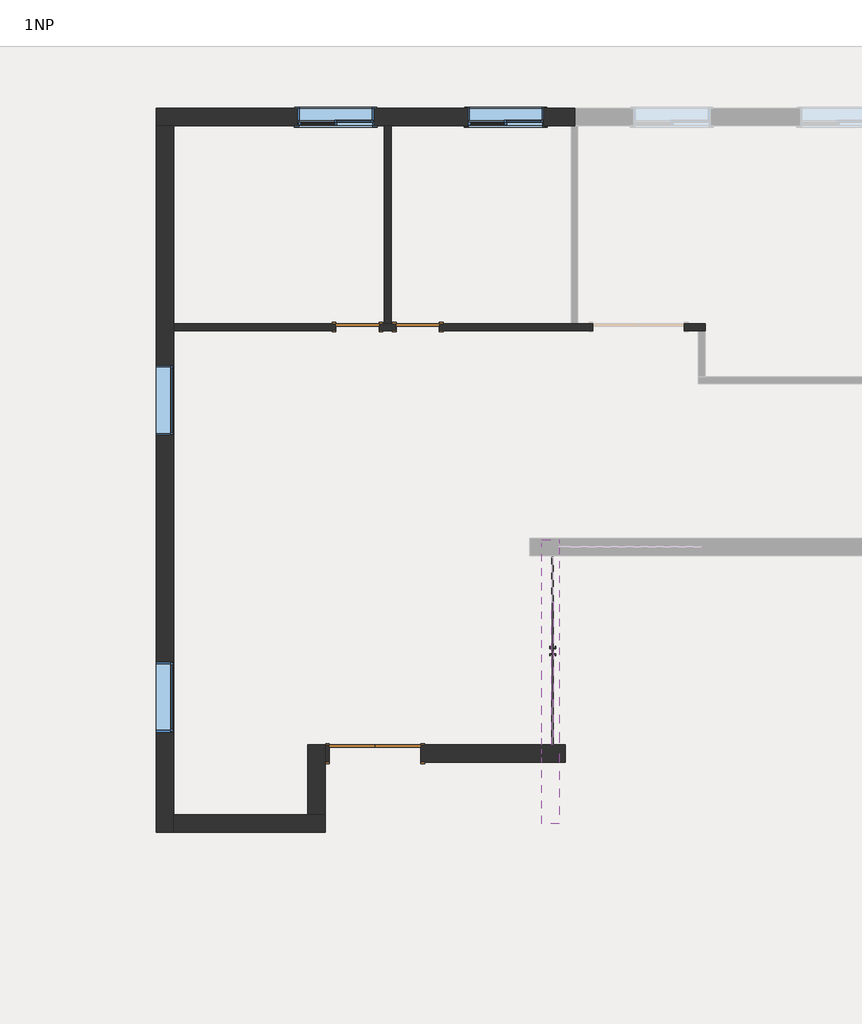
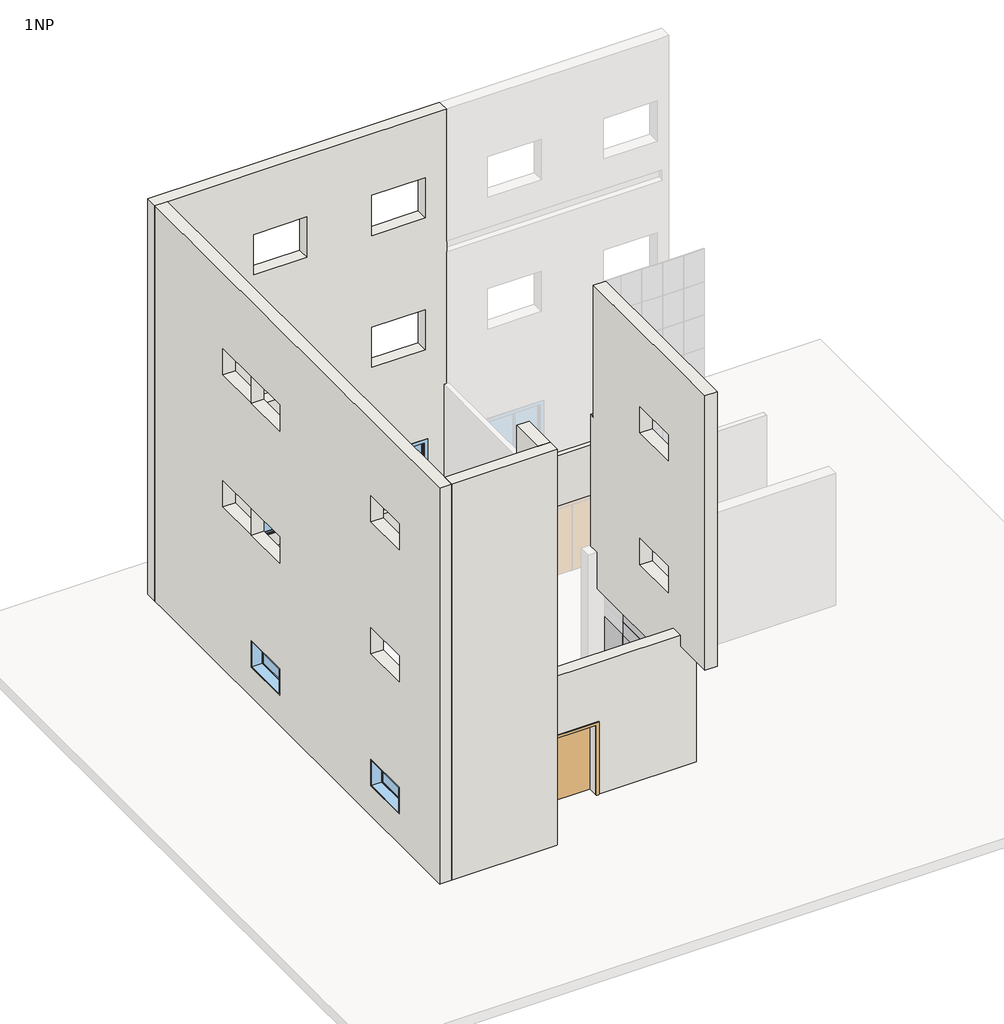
# One storey, part 1 of 2: 8 walls, 7 plates, 4 windows, 3 doors.
"""IFC4 building model written with IfcOpenShell, lengths in millimetres."""

import ifcopenshell
import ifcopenshell.guid

model = None  # the IFC model being written
_history = None  # IfcOwnerHistory: only IFC2X3 demands one
_inside = {}  # id of a spatial element -> (the spatial element, [elements in it])
_under = {}  # id of a project, library or spatial element -> (it, [spatial elements below it])
_declared = {}  # id of a project -> (the project, [libraries it declares])
_typed = {}  # id of a type object -> (the type object, [elements of that type])
_made_of = {}  # id of a material, layer set ... -> (it, [elements and type objects made of it])


def new_model(schema):
    """Start an empty IFC model of exactly this schema.

    Asked for "IFC4X3", IfcOpenShell would pick the latest addendum, in which some entities
    have other attributes; the version numbers below select the first issue.
    IFC2X3 requires an IfcOwnerHistory on every rooted entity: one is made here for all.
    """
    global model, _history
    if schema == "IFC4X3":
        model = ifcopenshell.file(schema_version=(4, 3, 0, 0))
    else:
        model = ifcopenshell.file(schema=schema)
    _inside.clear()
    _under.clear()
    _declared.clear()
    _typed.clear()
    _made_of.clear()
    _history = None
    if model.schema == "IFC2X3":
        org = make("IfcOrganization", Name="unknown")
        user = make(
            "IfcPersonAndOrganization",
            ThePerson=make("IfcPerson", FamilyName="unknown"),
            TheOrganization=org,
        )
        app = make(
            "IfcApplication",
            ApplicationDeveloper=org,
            Version="unknown",
            ApplicationFullName="unknown",
            ApplicationIdentifier="unknown",
        )
        _history = make(
            "IfcOwnerHistory",
            OwningUser=user,
            OwningApplication=app,
            ChangeAction="ADDED",
            CreationDate=0,
        )
    return model


def make(cls, **values):
    """One entity of the class cls with the attributes given. An attribute that is None is left unset."""
    return model.create_entity(
        cls, **{name: value for name, value in values.items() if value is not None}
    )


def rooted(cls, **values):
    """An entity with a GlobalId (a new one), such as an element, a storey or a relation."""
    return make(cls, GlobalId=ifcopenshell.guid.new(), OwnerHistory=_history, **values)


def si_unit(unit_type, name, prefix=None):
    """IfcSIUnit, for example si_unit("LENGTHUNIT", "METRE", prefix="MILLI")."""
    return make("IfcSIUnit", UnitType=unit_type, Prefix=prefix, Name=name)


def assignment(units):
    """IfcUnitAssignment: the units of a project."""
    return None if units is None else make("IfcUnitAssignment", Units=units)


def point(xyz):
    """IfcCartesianPoint."""
    return None if xyz is None else make("IfcCartesianPoint", Coordinates=xyz)


def direction(xyz):
    """IfcDirection."""
    return None if xyz is None else make("IfcDirection", DirectionRatios=xyz)


def frame(location, z_axis=None, x_axis=None):
    """IfcAxis2Placement3D, a coordinate frame: its origin and axes. An axis left out is left unset."""
    return make(
        "IfcAxis2Placement3D",
        Location=point(location),
        Axis=direction(z_axis),
        RefDirection=direction(x_axis),
    )


def origin():
    """The frame at (0, 0, 0) with its axes left unset."""
    return frame((0.0, 0.0, 0.0))


def origin_with_axes():
    """The frame at (0, 0, 0) with the z axis (0, 0, 1) and the x axis (1, 0, 0) written out."""
    return frame((0.0, 0.0, 0.0), z_axis=(0.0, 0.0, 1.0), x_axis=(1.0, 0.0, 0.0))


def place(relative_to, where):
    """IfcLocalPlacement: puts the frame where relative to a parent placement (None: the world)."""
    return make(
        "IfcLocalPlacement", PlacementRelTo=relative_to, RelativePlacement=where
    )


def context(
    kind, dimensions, precision=None, world=None, true_north=None, identifier=None
):
    """IfcGeometricRepresentationContext, for example the 3D "Model" context."""
    return make(
        "IfcGeometricRepresentationContext",
        ContextIdentifier=identifier,
        ContextType=kind,
        CoordinateSpaceDimension=dimensions,
        Precision=precision,
        WorldCoordinateSystem=world,
        TrueNorth=true_north,
    )


def project(units=None, contexts=None):
    """IfcProject with its units and contexts."""
    return rooted(
        "IfcProject",
        Name="project",
        RepresentationContexts=contexts,
        UnitsInContext=assignment(units),
    )


def spatial(cls, under=None, at=None, **own):
    """A site, building, storey or space (cls), placed at a placement, below another one or the project."""
    s = rooted(cls, ObjectPlacement=at, **own)
    if under is not None:
        _under.setdefault(under.id(), (under, []))[1].append(s)
    return s


def polyline(points):
    """IfcPolyline through the points."""
    return make("IfcPolyline", Points=[point(p) for p in points])


def outline(outer, holes=None, kind="AREA"):
    """IfcArbitraryClosedProfileDef: a profile drawn as a closed curve; with holes, ...WithVoids."""
    if holes is None:
        return make("IfcArbitraryClosedProfileDef", ProfileType=kind, OuterCurve=outer)
    return make(
        "IfcArbitraryProfileDefWithVoids",
        ProfileType=kind,
        OuterCurve=outer,
        InnerCurves=holes,
    )


def extrude(swept, where, along, depth):
    """IfcExtrudedAreaSolid: the profile swept, set in the frame where, extruded along a direction by depth."""
    return make(
        "IfcExtrudedAreaSolid",
        SweptArea=swept,
        Position=where,
        ExtrudedDirection=direction(along),
        Depth=depth,
    )


def faces_of(points, faces, orient=None, outer=None):
    """IfcFace entities. A face is a list of loops; a loop is a list of indices into points, from 0.

    orient and outer hold one flag for each loop. By default every Orientation is true, the
    first loop of a face is its IfcFaceOuterBound and the others are IfcFaceBound.
    """
    made = []
    for i, loops in enumerate(faces):
        bounds = []
        for j, loop in enumerate(loops):
            is_outer = j == 0 if outer is None else outer[i][j]
            bounds.append(
                make(
                    "IfcFaceOuterBound" if is_outer else "IfcFaceBound",
                    Bound=make("IfcPolyLoop", Polygon=[points[k] for k in loop]),
                    Orientation=True if orient is None else orient[i][j],
                )
            )
        made.append(make("IfcFace", Bounds=bounds))
    return made


def faceted_brep(points, faces, orient=None, outer=None, voids=None):
    """IfcFacetedBrep: a solid bounded by flat faces; with voids (closed shells), ...WithVoids."""
    shared = [point(p) for p in points]
    hull = make("IfcClosedShell", CfsFaces=faces_of(shared, faces, orient, outer))
    if voids is None:
        return make("IfcFacetedBrep", Outer=hull)
    return make(
        "IfcFacetedBrepWithVoids",
        Outer=hull,
        Voids=[
            make(cls, CfsFaces=faces_of(shared, fs, o, b)) for cls, fs, o, b in voids
        ],
    )


def shape(context_of_items, identifier, shape_type, items):
    """IfcShapeRepresentation: the items that make up one representation, for example the "Body"."""
    return make(
        "IfcShapeRepresentation",
        ContextOfItems=context_of_items,
        RepresentationIdentifier=identifier,
        RepresentationType=shape_type,
        Items=items,
    )


def source(mapping_origin, context_of_items, identifier, shape_type, items):
    """IfcRepresentationMap: a shape defined once, which mapped items show again and again."""
    return make(
        "IfcRepresentationMap",
        MappingOrigin=mapping_origin,
        MappedRepresentation=shape(context_of_items, identifier, shape_type, items),
    )


def transform(
    local_origin,
    x_axis=None,
    y_axis=None,
    z_axis=None,
    scale=None,
    scale2=None,
    scale3=None,
    uniform=True,
):
    """IfcCartesianTransformationOperator3D, or its non-uniform kind. x_axis, y_axis, z_axis: its Axis1, 2, 3."""
    if uniform:
        return make(
            "IfcCartesianTransformationOperator3D",
            Axis1=direction(x_axis),
            Axis2=direction(y_axis),
            LocalOrigin=point(local_origin),
            Scale=scale,
            Axis3=direction(z_axis),
        )
    return make(
        "IfcCartesianTransformationOperator3DnonUniform",
        Axis1=direction(x_axis),
        Axis2=direction(y_axis),
        LocalOrigin=point(local_origin),
        Scale=scale,
        Axis3=direction(z_axis),
        Scale2=scale2,
        Scale3=scale3,
    )


def mapped(mapping_source, mapping_target):
    """IfcMappedItem: shows the shape of a source again, moved by a transform."""
    return make(
        "IfcMappedItem", MappingSource=mapping_source, MappingTarget=mapping_target
    )


def made_of(thing, what):
    """Note that an element or type object is made of a material, layer set ...; save() writes the relation."""
    if what is not None:
        _made_of.setdefault(what.id(), (what, []))[1].append(thing)
    return thing


def element(
    cls,
    number,
    at=None,
    inside=None,
    cuts=None,
    type_object=None,
    material=None,
    context=None,
    identifier="Body",
    shape_type=None,
    held_by="IfcProductDefinitionShape",
    body=None,
    shapes=None,
    **own,
):
    """One element of the class cls, such as IfcWall. Its Tag is "e" and its number.

    at: its placement. inside: the storey or other place that contains it. cuts: it is an
    opening in that element (IfcRelVoidsElement). A single representation is given by context,
    identifier, shape_type and body (its items); several are given by shapes. held_by: the class
    of the entity that holds the representations. save() writes the other relations.
    """
    e = rooted(cls, Tag="e%d" % number, ObjectPlacement=at, **own)
    if body is not None:
        shapes = [shape(context, identifier, shape_type, body)]
    if shapes is not None:
        e.Representation = make(held_by, Representations=shapes)
    if inside is not None:
        _inside.setdefault(inside.id(), (inside, []))[1].append(e)
    if cuts is not None:
        rooted(
            "IfcRelVoidsElement", RelatingBuildingElement=cuts, RelatedOpeningElement=e
        )
    if type_object is not None:
        _typed.setdefault(type_object.id(), (type_object, []))[1].append(e)
    return made_of(e, material)


def aggregate(whole, parts):
    """IfcRelAggregates: a whole, such as a stair, and the parts it consists of."""
    return rooted("IfcRelAggregates", RelatingObject=whole, RelatedObjects=parts)


def save(model, path):
    """Write the relations noted so far, then the file.

    IfcRelAggregates (storeys below a building ...), IfcRelContainedInSpatialStructure (elements
    in a storey), IfcRelDefinesByType, IfcRelAssociatesMaterial and IfcRelDeclares: one each for
    every whole, place, type object, material and project.
    """
    for whole, parts in _under.values():
        aggregate(whole, parts)
    for where, things in _inside.values():
        rooted(
            "IfcRelContainedInSpatialStructure",
            RelatedElements=things,
            RelatingStructure=where,
        )
    for kind, things in _typed.values():
        rooted("IfcRelDefinesByType", RelatedObjects=things, RelatingType=kind)
    for what, things in _made_of.values():
        rooted("IfcRelAssociatesMaterial", RelatedObjects=things, RelatingMaterial=what)
    for by, libraries in _declared.values():
        rooted("IfcRelDeclares", RelatingContext=by, RelatedDefinitions=libraries)
    model.write(path)


def m_double_flush_1830_x_2134mm_224c2c1d(model_context):
    return source(origin(), model_context, "Body", "SweptSolid", [
        extrude(outline(polyline([(0.0, 175.0), (915.0, 175.0), (915.0, 124.0), (0.0, 124.0), (0.0, 175.0)])), origin_with_axes(), (0.0, 0.0, 1.0), 2134.0),
        extrude(outline(polyline([(-915.0, 175.0), (0.0, 175.0), (0.0, 124.0), (-915.0, 124.0), (-915.0, 175.0)])), origin_with_axes(), (0.0, 0.0, 1.0), 2134.0),
        extrude(outline(polyline([(2134.0, -915.0), (2134.0, 915.0), (0.0, 915.0), (0.0, 991.0), (2210.0, 991.0), (2210.0, -991.0), (0.0, -991.0), (0.0, -915.0), (2134.0, -915.0)])), frame((0.0, -200.0, 0.0), z_axis=(0.0, 1.0, 0.0), x_axis=(0.0, 0.0, 1.0)), (0.0, 0.0, 1.0), 25.0),
        extrude(outline(polyline([(2134.0, -915.0), (2134.0, 915.0), (0.0, 915.0), (0.0, 991.0), (2210.0, 991.0), (2210.0, -991.0), (0.0, -991.0), (0.0, -915.0), (2134.0, -915.0)])), frame((0.0, 175.0, 0.0), z_axis=(0.0, 1.0, 0.0), x_axis=(0.0, 0.0, 1.0)), (0.0, 0.0, 1.0), 25.0),
    ])


def m_single_flush_0864_x_2134mm_5a8c3ac0(model_context):
    return source(origin(), model_context, "Body", "SweptSolid", [
        extrude(outline(polyline([(2210.0, -508.0), (0.0, -508.0), (0.0, -432.0), (2134.0, -432.0), (2134.0, 432.0), (0.0, 432.0), (0.0, 508.0), (2210.0, 508.0), (2210.0, -508.0)])), frame((0.0, 69.25, 0.0), z_axis=(0.0, 1.0, 0.0), x_axis=(0.0, 0.0, 1.0)), (0.0, 0.0, 1.0), 25.0),
        extrude(outline(polyline([(2210.0, 508.0), (2210.0, -508.0), (0.0, -508.0), (0.0, -432.0), (2134.0, -432.0), (2134.0, 432.0), (0.0, 432.0), (0.0, 508.0), (2210.0, 508.0)])), frame((0.0, -94.25, 0.0), z_axis=(0.0, 1.0, 0.0), x_axis=(0.0, 0.0, 1.0)), (0.0, 0.0, 1.0), 25.0),
        extrude(outline(polyline([(432.0, 18.25), (-432.0, 18.25), (-432.0, 69.25), (432.0, 69.25), (432.0, 18.25)])), origin_with_axes(), (0.0, 0.0, 1.0), 2134.0),
    ])


def m_single_flush_0864_x_2134mm_a6052287(model_context):
    return source(origin(), model_context, "Body", "SweptSolid", [
        extrude(outline(polyline([(2210.0, -508.0), (0.0, -508.0), (0.0, -432.0), (2134.0, -432.0), (2134.0, 432.0), (0.0, 432.0), (0.0, 508.0), (2210.0, 508.0), (2210.0, -508.0)])), frame((0.0, -94.25, 0.0), z_axis=(0.0, 1.0, 0.0), x_axis=(0.0, 0.0, 1.0)), (0.0, 0.0, 1.0), 25.0),
        extrude(outline(polyline([(2210.0, 508.0), (2210.0, -508.0), (0.0, -508.0), (0.0, -432.0), (2134.0, -432.0), (2134.0, 432.0), (0.0, 432.0), (0.0, 508.0), (2210.0, 508.0)])), frame((0.0, 69.25, 0.0), z_axis=(0.0, 1.0, 0.0), x_axis=(0.0, 0.0, 1.0)), (0.0, 0.0, 1.0), 25.0),
        extrude(outline(polyline([(432.0, -18.25), (432.0, -69.25), (-432.0, -69.25), (-432.0, -18.25), (432.0, -18.25)])), origin_with_axes(), (0.0, 0.0, 1.0), 2134.0),
    ])


def m_curtain_wall_dbl_glass_m_curtain_wall_dbl_glass_b983a01c(model_context):
    return source(origin(), model_context, "Body", "SweptSolid", [
        extrude(outline(polyline([(-1.5875, -30.95), (-1.5875, -50.0), (-975.0, -50.0), (-975.0, -30.95), (-1.5875, -30.95)])), origin_with_axes(), (0.0, 0.0, 1.0), 2000.0),
        extrude(outline(polyline([(975.0, -30.95), (975.0, -50.0), (1.5875, -50.0), (1.5875, -30.95), (975.0, -30.95)])), origin_with_axes(), (0.0, 0.0, 1.0), 2000.0),
        extrude(outline(polyline([(-50.8, -100.8), (-95.25, -100.8), (-95.25, -94.45), (-57.15, -94.45), (-57.15, -50.0), (-50.8, -50.0), (-50.8, -100.8)])), frame((0.0, 0.0, 863.6), z_axis=(0.0, 0.0, 1.0), x_axis=(1.0, 0.0, 0.0)), (0.0, 0.0, 1.0), 203.2),
        extrude(outline(polyline([(50.8, -100.8), (50.8, -50.0), (57.15, -50.0), (57.15, -94.45), (95.25, -94.45), (95.25, -100.8), (50.8, -100.8)])), frame((0.0, 0.0, 863.6), z_axis=(0.0, 0.0, 1.0), x_axis=(1.0, 0.0, 0.0)), (0.0, 0.0, 1.0), 203.2),
        extrude(outline(polyline([(-50.8, 19.85), (-50.8, -30.95), (-57.15, -30.95), (-57.15, 13.5), (-95.25, 13.5), (-95.25, 19.85), (-50.8, 19.85)])), frame((0.0, 0.0, 863.6), z_axis=(0.0, 0.0, 1.0), x_axis=(1.0, 0.0, 0.0)), (0.0, 0.0, 1.0), 203.2),
        extrude(outline(polyline([(50.8, 19.85), (95.25, 19.85), (95.25, 13.5), (57.15, 13.5), (57.15, -30.95), (50.8, -30.95), (50.8, 19.85)])), frame((0.0, 0.0, 863.6), z_axis=(0.0, 0.0, 1.0), x_axis=(1.0, 0.0, 0.0)), (0.0, 0.0, 1.0), 203.2),
    ])


def system_panel_glazed_d6775a2a(model_context):
    return source(origin(), model_context, "Body", "SweptSolid", [
        extrude(outline(polyline([(450.0, -49.5), (-450.0, -49.5), (-450.0, -24.5), (450.0, -24.5), (450.0, -49.5)])), origin_with_axes(), (0.0, 0.0, 1.0), 2000.0),
    ])


def system_panel_glazed_e6f66e58(model_context):
    return source(origin(), model_context, "Body", "SweptSolid", [
        extrude(outline(polyline([(450.0, -49.5), (-450.0, -49.5), (-450.0, -24.5), (450.0, -24.5), (450.0, -49.5)])), origin_with_axes(), (0.0, 0.0, 1.0), 400.0),
    ])


def system_panel_glazed_1b13e7de(model_context):
    return source(origin(), model_context, "Body", "SweptSolid", [
        extrude(outline(polyline([(975.0, -49.5), (-975.0, -49.5), (-975.0, -24.5), (975.0, -24.5), (975.0, -49.5)])), origin_with_axes(), (0.0, 0.0, 1.0), 400.0),
    ])


def system_panel_glazed_1cea1c28(model_context):
    return source(origin(), model_context, "Body", "SweptSolid", [
        extrude(outline(polyline([(450.0, -49.5), (-450.0, -49.5), (-450.0, -24.5), (450.0, -24.5), (450.0, -49.5)])), origin_with_axes(), (0.0, 0.0, 1.0), 500.0),
    ])


def system_panel_glazed_d60ff87d(model_context):
    return source(origin(), model_context, "Body", "SweptSolid", [
        extrude(outline(polyline([(975.0, -49.5), (-975.0, -49.5), (-975.0, -24.5), (975.0, -24.5), (975.0, -49.5)])), origin_with_axes(), (0.0, 0.0, 1.0), 500.0),
    ])


def m_fixed_1400_x_0800mm_a23a53e8(model_context):
    return source(origin(), model_context, "Body", "SweptSolid", [
        extrude(outline(polyline([(-637.0, 153.0), (637.0, 153.0), (637.0, 141.0), (-637.0, 141.0), (-637.0, 153.0)])), frame((0.0, 0.0, 978.0), z_axis=(0.0, 0.0, 1.0), x_axis=(1.0, 0.0, 0.0)), (0.0, 0.0, 1.0), 674.0),
        extrude(outline(polyline([(1696.0, -681.0), (934.0, -681.0), (934.0, 681.0), (1696.0, 681.0), (1696.0, -681.0)]), holes=[polyline([(1652.0, -637.0), (1652.0, 637.0), (978.0, 637.0), (978.0, -637.0), (1652.0, -637.0)])]), frame((0.0, 125.0, 0.0), z_axis=(0.0, 1.0, 0.0), x_axis=(0.0, 0.0, 1.0)), (0.0, 0.0, 1.0), 44.0),
        extrude(outline(polyline([(1715.0, -700.0), (915.0, -700.0), (915.0, 700.0), (1715.0, 700.0), (1715.0, -700.0)]), holes=[polyline([(1696.0, -681.0), (1696.0, 681.0), (934.0, 681.0), (934.0, -681.0), (1696.0, -681.0)])]), frame((0.0, 125.0, 0.0), z_axis=(0.0, 1.0, 0.0), x_axis=(0.0, 0.0, 1.0)), (0.0, 0.0, 1.0), 63.0),
        extrude(outline(polyline([(1715.0, -700.0), (915.0, -700.0), (915.0, 700.0), (1715.0, 700.0), (1715.0, -700.0)]), holes=[polyline([(1683.0, -668.0), (1683.0, 668.0), (947.0, 668.0), (947.0, -668.0), (1683.0, -668.0)])]), frame((0.0, -162.0, 0.0), z_axis=(0.0, 1.0, 0.0), x_axis=(0.0, 0.0, 1.0)), (0.0, 0.0, 1.0), 287.0),
    ])


def m_sliding_with_trim_1830_x_1220mm_f8e2f31e(model_context):
    return source(origin(), model_context, "Body", "SweptSolid", [
        extrude(outline(polyline([(-698.5, 95.625), (-22.225, 95.625), (-22.225, 82.925), (-698.5, 82.925), (-698.5, 95.625)])), frame((0.0, 0.0, 977.9), z_axis=(0.0, 0.0, 1.0), x_axis=(1.0, 0.0, 0.0)), (0.0, 0.0, 1.0), 1092.2),
        extrude(outline(polyline([(2114.55, -742.95), (933.45, -742.95), (933.45, 22.225), (2114.55, 22.225), (2114.55, -742.95)]), holes=[polyline([(2070.1, -698.5), (2070.1, -22.225), (977.9, -22.225), (977.9, -698.5), (2070.1, -698.5)])]), frame((0.0, 67.05, 0.0), z_axis=(0.0, 1.0, 0.0), x_axis=(0.0, 0.0, 1.0)), (0.0, 0.0, 1.0), 44.45),
        extrude(outline(polyline([(-831.85, 206.75), (831.85, 206.75), (831.85, 175.0), (-831.85, 175.0), (-831.85, 206.75)])), frame((0.0, 0.0, 914.4), z_axis=(0.0, 0.0, 1.0), x_axis=(1.0, 0.0, 0.0)), (0.0, 0.0, 1.0), 19.05),
        extrude(outline(polyline([(2114.55, -742.95), (2114.55, 742.95), (933.45, 742.95), (933.45, 831.85), (2203.45, 831.85), (2203.45, -831.85), (933.45, -831.85), (933.45, -742.95), (2114.55, -742.95)])), frame((0.0, 175.0, 0.0), z_axis=(0.0, 1.0, 0.0), x_axis=(0.0, 0.0, 1.0)), (0.0, 0.0, 1.0), 19.05),
        extrude(outline(polyline([(2190.75, 819.15), (2190.75, -819.15), (857.25, -819.15), (857.25, 819.15), (2190.75, 819.15)]), holes=[polyline([(2101.85, 730.25), (946.15, 730.25), (946.15, -730.25), (2101.85, -730.25), (2101.85, 730.25)])]), frame((0.0, -194.05, 0.0), z_axis=(0.0, 1.0, 0.0), x_axis=(0.0, 0.0, 1.0)), (0.0, 0.0, 1.0), 19.05),
        extrude(outline(polyline([(698.5, 127.375), (22.225, 127.375), (22.225, 140.075), (698.5, 140.075), (698.5, 127.375)])), frame((0.0, 0.0, 977.9), z_axis=(0.0, 0.0, 1.0), x_axis=(1.0, 0.0, 0.0)), (0.0, 0.0, 1.0), 1092.2),
        extrude(outline(polyline([(2114.55, -22.225), (933.45, -22.225), (933.45, 742.95), (2114.55, 742.95), (2114.55, -22.225)]), holes=[polyline([(2070.1, 22.225), (2070.1, 698.5), (977.9, 698.5), (977.9, 22.225), (2070.1, 22.225)])]), frame((0.0, 111.5, 0.0), z_axis=(0.0, 1.0, 0.0), x_axis=(0.0, 0.0, 1.0)), (0.0, 0.0, 1.0), 44.45),
        extrude(outline(polyline([(2133.6, -762.0), (914.4, -762.0), (914.4, 762.0), (2133.6, 762.0), (2133.6, -762.0)]), holes=[polyline([(2101.85, -730.25), (2101.85, 730.25), (946.15, 730.25), (946.15, -730.25), (2101.85, -730.25)])]), frame((0.0, -175.0, 0.0), z_axis=(0.0, 1.0, 0.0), x_axis=(0.0, 0.0, 1.0)), (0.0, 0.0, 1.0), 242.05),
        extrude(outline(polyline([(2133.6, 762.0), (2133.6, -762.0), (914.4, -762.0), (914.4, 762.0), (2133.6, 762.0)]), holes=[polyline([(2114.55, 742.95), (933.45, 742.95), (933.45, -742.95), (2114.55, -742.95), (2114.55, 742.95)])]), frame((0.0, 67.05, 0.0), z_axis=(0.0, 1.0, 0.0), x_axis=(0.0, 0.0, 1.0)), (0.0, 0.0, 1.0), 107.95),
    ])


model = new_model("IFC4")

# Units and contexts
model_context = context("Model", 3, world=origin())
ifc_project = project(units=[si_unit("LENGTHUNIT", "METRE", prefix="MILLI")], contexts=[model_context])

# Site, building, storey
site = spatial("IfcSite", under=ifc_project)
building = spatial("IfcBuilding", under=site)
storey = spatial("IfcBuildingStorey", under=building, Name="1NP", Elevation=0.0)

# Doors
placement = place(None, origin())
m_double_flush_1830_x_2134mm_shape = m_double_flush_1830_x_2134mm_224c2c1d(model_context)
element("IfcDoor", 1, ObjectType="M_Double-Flush : 1830 x 2134mm", at=placement, inside=storey, context=model_context, shape_type="MappedRepresentation", body=[
    mapped(m_double_flush_1830_x_2134mm_shape, transform((-3151.8077176, -2850.1973194, 0.0), x_axis=(0.9999999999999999, 0.0, 0.0), y_axis=(0.0, 0.9999999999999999, 0.0), z_axis=(0.0, 0.0, 1.0))),
])
m_single_flush_0864_x_2134mm_shape = m_single_flush_0864_x_2134mm_5a8c3ac0(model_context)
element("IfcDoor", 2, ObjectType="M_Single-Flush : 0864 x 2134mm", at=placement, inside=storey, context=model_context, shape_type="MappedRepresentation", body=[
    mapped(m_single_flush_0864_x_2134mm_shape, transform((-3505.756955, 5680.8503657, 0.0), x_axis=(0.9999999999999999, 0.0, 0.0), y_axis=(0.0, 0.9999999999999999, 0.0), z_axis=(0.0, 0.0, 1.0))),
])
m_single_flush_0864_x_2134mm_2_shape = m_single_flush_0864_x_2134mm_a6052287(model_context)
element("IfcDoor", 3, ObjectType="M_Single-Flush : 0864 x 2134mm", at=placement, inside=storey, context=model_context, shape_type="MappedRepresentation", body=[
    mapped(m_single_flush_0864_x_2134mm_2_shape, transform((-2303.256955, 5680.8503657, 0.0), x_axis=(-0.9999999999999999, 0.0, 0.0), y_axis=(0.0, -0.9999999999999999, 0.0), z_axis=(0.0, 0.0, 1.0))),
])

# Plates
m_curtain_wall_dbl_glass_m_curtain_wall_dbl_glass_shape = m_curtain_wall_dbl_glass_m_curtain_wall_dbl_glass_b983a01c(model_context)
element("IfcPlate", 4, ObjectType="M_Curtain Wall Dbl Glass : M_Curtain Wall Dbl Glass", at=placement, inside=storey, context=model_context, shape_type="MappedRepresentation", body=[
    mapped(m_curtain_wall_dbl_glass_m_curtain_wall_dbl_glass_shape, transform((357.3775179, -800.1973194, 0.0), x_axis=(0.0, 1.0, 0.0), y_axis=(-1.0, 0.0, 0.0), z_axis=(0.0, 0.0, 1.0))),
])
system_panel_glazed_shape = system_panel_glazed_d6775a2a(model_context)
element("IfcPlate", 5, ObjectType="System Panel : Glazed", at=placement, inside=storey, context=model_context, shape_type="MappedRepresentation", body=[
    mapped(system_panel_glazed_shape, transform((357.3775179, -2225.1973194, 0.0), x_axis=(0.0, 1.0, 0.0), y_axis=(-1.0, 0.0, 0.0), z_axis=(0.0, 0.0, 1.0))),
])
element("IfcPlate", 6, ObjectType="System Panel : Glazed", at=placement, inside=storey, context=model_context, shape_type="MappedRepresentation", body=[
    mapped(system_panel_glazed_shape, transform((357.3775179, 624.8026806, 0.0), x_axis=(0.0, 1.0, 0.0), y_axis=(-1.0, 0.0, 0.0), z_axis=(0.0, 0.0, 1.0))),
])
system_panel_glazed_2_shape = system_panel_glazed_e6f66e58(model_context)
element("IfcPlate", 7, ObjectType="System Panel : Glazed", at=placement, inside=storey, context=model_context, shape_type="MappedRepresentation", body=[
    mapped(system_panel_glazed_2_shape, transform((357.3775179, -2225.1973194, 2000.0), x_axis=(0.0, 1.0, 0.0), y_axis=(-1.0, 0.0, 0.0), z_axis=(0.0, 0.0, 1.0))),
])
system_panel_glazed_3_shape = system_panel_glazed_1b13e7de(model_context)
element("IfcPlate", 8, ObjectType="System Panel : Glazed", at=placement, inside=storey, context=model_context, shape_type="MappedRepresentation", body=[
    mapped(system_panel_glazed_3_shape, transform((357.3775179, -800.1973194, 2000.0), x_axis=(0.0, 1.0, 0.0), y_axis=(-1.0, 0.0, 0.0), z_axis=(0.0, 0.0, 1.0))),
])
system_panel_glazed_4_shape = system_panel_glazed_1cea1c28(model_context)
element("IfcPlate", 9, ObjectType="System Panel : Glazed", at=placement, inside=storey, context=model_context, shape_type="MappedRepresentation", body=[
    mapped(system_panel_glazed_4_shape, transform((357.3775179, -2225.1973194, 2400.0), x_axis=(0.0, 1.0, 0.0), y_axis=(-1.0, 0.0, 0.0), z_axis=(0.0, 0.0, 1.0))),
])
system_panel_glazed_5_shape = system_panel_glazed_d60ff87d(model_context)
element("IfcPlate", 10, ObjectType="System Panel : Glazed", at=placement, inside=storey, context=model_context, shape_type="MappedRepresentation", body=[
    mapped(system_panel_glazed_5_shape, transform((357.3775179, -800.1973194, 2400.0), x_axis=(0.0, 1.0, 0.0), y_axis=(-1.0, 0.0, 0.0), z_axis=(0.0, 0.0, 1.0))),
])

# Walls
element("IfcWall", 11, ObjectType="Exterior - Brick on Mtl. Stud", at=placement, inside=storey, context=model_context, shape_type="Brep", body=[
    faceted_brep([(833.993045, 10061.6003657, 12000.0), (833.993045, 10061.6003657, 0.0), (-7530.3077176, 10061.6003657, 0.0), (-7530.3077176, 10061.6003657, 12000.0), (-1306.3077176, 10061.6003657, 6133.6), (-1306.3077176, 10061.6003657, 4914.4), (217.6922824, 10061.6003657, 4914.4), (217.6922824, 10061.6003657, 6133.6), (-4702.1577176, 10061.6003657, 6133.6), (-4702.1577176, 10061.6003657, 4914.4), (-3178.1577176, 10061.6003657, 4914.4), (-3178.1577176, 10061.6003657, 6133.6), (-1306.3077176, 10061.6003657, 10133.6), (-1306.3077176, 10061.6003657, 8914.4), (217.6922824, 10061.6003657, 8914.4), (217.6922824, 10061.6003657, 10133.6), (-4702.1577176, 10061.6003657, 10133.6), (-4702.1577176, 10061.6003657, 8914.4), (-3178.1577176, 10061.6003657, 8914.4), (-3178.1577176, 10061.6003657, 10133.6), (-1306.3077176, 10061.6003657, 2133.6), (-1306.3077176, 10061.6003657, 914.4), (217.6922824, 10061.6003657, 914.4), (217.6922824, 10061.6003657, 2133.6), (-4702.1577176, 10061.6003657, 2133.6), (-4702.1577176, 10061.6003657, 914.4), (-3178.1577176, 10061.6003657, 914.4), (-3178.1577176, 10061.6003657, 2133.6), (833.993045, 9711.6003657, 0.0), (833.993045, 9711.6003657, 7680.0), (833.993045, 9711.6003657, 8000.0), (833.993045, 9711.6003657, 12000.0), (764.743045, 9711.6003657, 12000.0), (-2646.756955, 9711.6003657, 12000.0), (-2785.256955, 9711.6003657, 12000.0), (-7180.3077176, 9711.6003657, 12000.0), (-7530.3077176, 9711.6003657, 12000.0), (-7530.3077176, 9711.6003657, 0.0), (-7180.3077176, 9711.6003657, 0.0), (-2973.756955, 9711.6003657, 0.0), (-2835.256955, 9711.6003657, 0.0), (764.743045, 9711.6003657, 0.0), (-1306.3077176, 9711.6003657, 6133.6), (217.6922824, 9711.6003657, 6133.6), (217.6922824, 9711.6003657, 4914.4), (-1306.3077176, 9711.6003657, 4914.4), (-4702.1577176, 9711.6003657, 6133.6), (-3178.1577176, 9711.6003657, 6133.6), (-3178.1577176, 9711.6003657, 4914.4), (-4702.1577176, 9711.6003657, 4914.4), (-1306.3077176, 9711.6003657, 10133.6), (217.6922824, 9711.6003657, 10133.6), (217.6922824, 9711.6003657, 8914.4), (-1306.3077176, 9711.6003657, 8914.4), (-4702.1577176, 9711.6003657, 10133.6), (-3178.1577176, 9711.6003657, 10133.6), (-3178.1577176, 9711.6003657, 8914.4), (-4702.1577176, 9711.6003657, 8914.4), (-1306.3077176, 9711.6003657, 2133.6), (217.6922824, 9711.6003657, 2133.6), (217.6922824, 9711.6003657, 914.4), (-1306.3077176, 9711.6003657, 914.4), (-4702.1577176, 9711.6003657, 2133.6), (-3178.1577176, 9711.6003657, 2133.6), (-3178.1577176, 9711.6003657, 914.4), (-4702.1577176, 9711.6003657, 914.4)], [[[0, 1, 2, 3], [4, 5, 6, 7], [8, 9, 10, 11], [12, 13, 14, 15], [16, 17, 18, 19], [20, 21, 22, 23], [24, 25, 26, 27]], [[28, 29, 30, 31, 32, 33, 34, 35, 36, 37, 38, 39, 40, 41], [42, 43, 44, 45], [46, 47, 48, 49], [50, 51, 52, 53], [54, 55, 56, 57], [58, 59, 60, 61], [62, 63, 64, 65]], [[2, 1, 28, 41, 40, 39, 38, 37]], [[0, 3, 36, 35, 34, 33, 32, 31]], [[0, 31, 30, 29, 28, 1]], [[3, 2, 37, 36]], [[5, 4, 42, 45]], [[6, 5, 45, 44]], [[7, 6, 44, 43]], [[4, 7, 43, 42]], [[9, 8, 46, 49]], [[10, 9, 49, 48]], [[11, 10, 48, 47]], [[8, 11, 47, 46]], [[13, 12, 50, 53]], [[14, 13, 53, 52]], [[15, 14, 52, 51]], [[12, 15, 51, 50]], [[17, 16, 54, 57]], [[18, 17, 57, 56]], [[19, 18, 56, 55]], [[16, 19, 55, 54]], [[21, 20, 58, 61]], [[22, 21, 61, 60]], [[23, 22, 60, 59]], [[20, 23, 59, 58]], [[25, 24, 62, 65]], [[26, 25, 65, 64]], [[27, 26, 64, 63]], [[24, 27, 63, 62]]]),
])
element("IfcWall", 12, ObjectType="Exterior - Brick on Mtl. Stud", at=placement, inside=storey, context=model_context, shape_type="Brep", body=[
    faceted_brep([(-2236.8077176, -3025.1973194, 2134.0), (-2236.8077176, -3025.1973194, 0.0), (644.6922824, -3025.1973194, 0.0), (644.6922824, -3025.1973194, 4000.0), (182.3775179, -3025.1973194, 4000.0), (-4155.3077176, -3025.1973194, 4000.0), (-4155.3077176, -3025.1973194, 0.0), (-4066.8077176, -3025.1973194, 0.0), (-4066.8077176, -3025.1973194, 2134.0), (644.6922824, -2675.1973194, 0.0), (-2236.8077176, -2675.1973194, 0.0), (-2236.8077176, -2675.1973194, 2134.0), (-4066.8077176, -2675.1973194, 2134.0), (-4066.8077176, -2675.1973194, 0.0), (-4155.3077176, -2675.1973194, 0.0), (-4155.3077176, -2675.1973194, 4000.0), (182.3775179, -2675.1973194, 4000.0), (644.6922824, -2675.1973194, 4000.0)], [[[0, 1, 2, 3, 4, 5, 6, 7, 8]], [[9, 10, 11, 12, 13, 14, 15, 16, 17]], [[2, 1, 10, 9]], [[7, 6, 14, 13]], [[3, 2, 9, 17]], [[5, 4, 3, 17, 16, 15]], [[6, 5, 15, 14]], [[11, 10, 1, 0]], [[12, 11, 0, 8]], [[13, 12, 8, 7]]]),
])
element("IfcWall", 13, ObjectType="Exterior - Brick on Mtl. Stud", at=placement, inside=storey, context=model_context, shape_type="Brep", body=[
    faceted_brep([(-7530.3077176, 9711.6003657, 0.0), (-7530.3077176, -4425.1973194, 0.0), (-7530.3077176, -4425.1973194, 12000.0), (-7530.3077176, 9711.6003657, 12000.0), (-7530.3077176, -1017.6973194, 4915.0), (-7530.3077176, -1017.6973194, 5715.0), (-7530.3077176, -2417.6973194, 5715.0), (-7530.3077176, -2417.6973194, 4915.0), (-7530.3077176, 4917.3026806, 4915.0), (-7530.3077176, 4917.3026806, 5715.0), (-7530.3077176, 3517.3026806, 5715.0), (-7530.3077176, 3517.3026806, 4915.0), (-7530.3077176, 6332.3026806, 4915.0), (-7530.3077176, 6332.3026806, 5715.0), (-7530.3077176, 4932.3026806, 5715.0), (-7530.3077176, 4932.3026806, 4915.0), (-7530.3077176, -1017.6973194, 8915.0), (-7530.3077176, -1017.6973194, 9715.0), (-7530.3077176, -2417.6973194, 9715.0), (-7530.3077176, -2417.6973194, 8915.0), (-7530.3077176, 4917.3026806, 8915.0), (-7530.3077176, 4917.3026806, 9715.0), (-7530.3077176, 3517.3026806, 9715.0), (-7530.3077176, 3517.3026806, 8915.0), (-7530.3077176, 6332.3026806, 8915.0), (-7530.3077176, 6332.3026806, 9715.0), (-7530.3077176, 4932.3026806, 9715.0), (-7530.3077176, 4932.3026806, 8915.0), (-7530.3077176, -1017.6973194, 915.0), (-7530.3077176, -1017.6973194, 1715.0), (-7530.3077176, -2417.6973194, 1715.0), (-7530.3077176, -2417.6973194, 915.0), (-7530.3077176, 4917.3026806, 915.0), (-7530.3077176, 4917.3026806, 1715.0), (-7530.3077176, 3517.3026806, 1715.0), (-7530.3077176, 3517.3026806, 915.0), (-7180.3077176, -4425.1973194, 0.0), (-7180.3077176, -4075.1973194, 0.0), (-7180.3077176, 5611.6003657, 0.0), (-7180.3077176, 5750.1003657, 0.0), (-7180.3077176, 9711.6003657, 0.0), (-7180.3077176, 9711.6003657, 3680.0), (-7180.3077176, 5750.1003657, 3680.0), (-7180.3077176, 5611.6003657, 3680.0), (-7180.3077176, -4075.1973194, 3680.0), (-7180.3077176, -4240.1973194, 3680.0), (-7180.3077176, -4240.1973194, 4000.0), (-7180.3077176, -4075.1973194, 4000.0), (-7180.3077176, -652.1973194, 4000.0), (-7180.3077176, -513.6973194, 4000.0), (-7180.3077176, 1286.3026806, 4000.0), (-7180.3077176, 1424.8026806, 4000.0), (-7180.3077176, 6332.3026806, 4000.0), (-7180.3077176, 6470.8026806, 4000.0), (-7180.3077176, 9711.6003657, 4000.0), (-7180.3077176, 9711.6003657, 12000.0), (-7180.3077176, 6768.5261065, 12000.0), (-7180.3077176, 6630.0261065, 12000.0), (-7180.3077176, 1424.8026806, 12000.0), (-7180.3077176, 1286.3026806, 12000.0), (-7180.3077176, -4075.1973194, 12000.0), (-7180.3077176, -4425.1973194, 12000.0), (-7180.3077176, -1017.6973194, 5715.0), (-7180.3077176, -1017.6973194, 4915.0), (-7180.3077176, -2417.6973194, 4915.0), (-7180.3077176, -2417.6973194, 5715.0), (-7180.3077176, 4917.3026806, 5715.0), (-7180.3077176, 4917.3026806, 4915.0), (-7180.3077176, 3517.3026806, 4915.0), (-7180.3077176, 3517.3026806, 5715.0), (-7180.3077176, 6332.3026806, 5715.0), (-7180.3077176, 6332.3026806, 4915.0), (-7180.3077176, 4932.3026806, 4915.0), (-7180.3077176, 4932.3026806, 5715.0), (-7180.3077176, -1017.6973194, 9715.0), (-7180.3077176, -1017.6973194, 8915.0), (-7180.3077176, -2417.6973194, 8915.0), (-7180.3077176, -2417.6973194, 9715.0), (-7180.3077176, 4917.3026806, 9715.0), (-7180.3077176, 4917.3026806, 8915.0), (-7180.3077176, 3517.3026806, 8915.0), (-7180.3077176, 3517.3026806, 9715.0), (-7180.3077176, 6332.3026806, 9715.0), (-7180.3077176, 6332.3026806, 8915.0), (-7180.3077176, 4932.3026806, 8915.0), (-7180.3077176, 4932.3026806, 9715.0), (-7180.3077176, -1017.6973194, 1715.0), (-7180.3077176, -1017.6973194, 915.0), (-7180.3077176, -2417.6973194, 915.0), (-7180.3077176, -2417.6973194, 1715.0), (-7180.3077176, 4917.3026806, 1715.0), (-7180.3077176, 4917.3026806, 915.0), (-7180.3077176, 3517.3026806, 915.0), (-7180.3077176, 3517.3026806, 1715.0), (-7345.3077176, 9711.6003657, 4000.0), (-7345.3077176, 9711.6003657, 3680.0), (-7345.3077176, -4240.1973194, 3680.0), (-7345.3077176, -4240.1973194, 4000.0)], [[[0, 1, 2, 3], [4, 5, 6, 7], [8, 9, 10, 11], [12, 13, 14, 15], [16, 17, 18, 19], [20, 21, 22, 23], [24, 25, 26, 27], [28, 29, 30, 31], [32, 33, 34, 35]], [[36, 37, 38, 39, 40, 41, 42, 43, 44, 45, 46, 47, 48, 49, 50, 51, 52, 53, 54, 55, 56, 57, 58, 59, 60, 61], [62, 63, 64, 65], [66, 67, 68, 69], [70, 71, 72, 73], [74, 75, 76, 77], [78, 79, 80, 81], [82, 83, 84, 85], [86, 87, 88, 89], [90, 91, 92, 93]], [[1, 0, 40, 39, 38, 37, 36]], [[3, 2, 61, 60, 59, 58, 57, 56, 55]], [[2, 1, 36, 61]], [[0, 3, 55, 54, 94, 95, 41, 40]], [[5, 4, 63, 62]], [[6, 5, 62, 65]], [[7, 6, 65, 64]], [[4, 7, 64, 63]], [[8, 67, 66, 9]], [[9, 66, 69, 10]], [[10, 69, 68, 11]], [[67, 8, 11, 68]], [[12, 71, 70, 13]], [[13, 70, 73, 14]], [[14, 73, 72, 15]], [[71, 12, 15, 72]], [[17, 16, 75, 74]], [[18, 17, 74, 77]], [[19, 18, 77, 76]], [[16, 19, 76, 75]], [[21, 20, 79, 78]], [[22, 21, 78, 81]], [[23, 22, 81, 80]], [[20, 23, 80, 79]], [[25, 24, 83, 82]], [[26, 25, 82, 85]], [[27, 26, 85, 84]], [[24, 27, 84, 83]], [[29, 28, 87, 86]], [[30, 29, 86, 89]], [[31, 30, 89, 88]], [[28, 31, 88, 87]], [[33, 32, 91, 90]], [[34, 33, 90, 93]], [[35, 34, 93, 92]], [[32, 35, 92, 91]], [[96, 45, 44, 43, 42, 41, 95]], [[97, 94, 54, 53, 52, 51, 50, 49, 48, 47, 46]], [[97, 96, 95, 94]], [[96, 97, 46, 45]]]),
])
element("IfcWall", 14, ObjectType="Exterior - Brick on Mtl. Stud", at=placement, inside=storey, context=model_context, shape_type="Brep", body=[
    faceted_brep([(-7180.3077176, -4425.1973194, 0.0), (-4155.3077176, -4425.1973194, 0.0), (-4155.3077176, -4425.1973194, 12000.0), (-7180.3077176, -4425.1973194, 12000.0), (-4155.3077176, -4075.1973194, 0.0), (-4505.3077176, -4075.1973194, 0.0), (-7180.3077176, -4075.1973194, 0.0), (-7180.3077176, -4075.1973194, 3680.0), (-4155.3077176, -4075.1973194, 3680.0), (-7180.3077176, -4075.1973194, 12000.0), (-4505.3077176, -4075.1973194, 12000.0), (-4155.3077176, -4075.1973194, 12000.0), (-4155.3077176, -4075.1973194, 4000.0), (-7180.3077176, -4075.1973194, 4000.0), (-4155.3077176, -4240.1973194, 3680.0), (-4155.3077176, -4240.1973194, 4000.0), (-7180.3077176, -4240.1973194, 4000.0), (-7180.3077176, -4240.1973194, 3680.0)], [[[0, 1, 2, 3]], [[4, 5, 6, 7, 8]], [[9, 10, 11, 12, 13]], [[1, 0, 6, 5, 4]], [[3, 2, 11, 10, 9]], [[2, 1, 4, 8, 14, 15, 12, 11]], [[0, 3, 9, 13, 16, 17, 7, 6]], [[17, 14, 8, 7]], [[15, 16, 13, 12]], [[14, 17, 16, 15]]]),
])
element("IfcWall", 15, ObjectType="Exterior - Brick on Mtl. Stud", at=placement, inside=storey, context=model_context, shape_type="Brep", body=[
    faceted_brep([(-4505.3077176, -2675.1973194, 0.0), (-4505.3077176, -4075.1973194, 0.0), (-4505.3077176, -4075.1973194, 12000.0), (-4505.3077176, -3025.1973194, 12000.0), (-4505.3077176, -3025.1973194, 4000.0), (-4505.3077176, -2675.1973194, 4000.0), (-4155.3077176, -2675.1973194, 0.0), (-4155.3077176, -2675.1973194, 4000.0), (-4155.3077176, -3025.1973194, 4000.0), (-4155.3077176, -3025.1973194, 12000.0), (-4155.3077176, -4075.1973194, 12000.0), (-4155.3077176, -4075.1973194, 4000.0), (-4155.3077176, -4075.1973194, 3680.0), (-4155.3077176, -4075.1973194, 0.0), (-4155.3077176, -3025.1973194, 0.0)], [[[0, 1, 2, 3, 4, 5]], [[6, 7, 8, 9, 10, 11, 12, 13, 14]], [[1, 0, 6, 14, 13]], [[3, 2, 10, 9]], [[2, 1, 13, 12, 11, 10]], [[4, 8, 7, 5]], [[0, 5, 7, 6]], [[3, 9, 8, 4]]]),
])
element("IfcWall", 16, ObjectType="Exterior - Brick on Mtl. Stud", at=placement, inside=storey, context=model_context, shape_type="Brep", body=[
    faceted_brep([(532.3775179, -4250.1973194, 3680.0), (532.3775179, -2850.1973194, 3680.0), (532.3775179, -2850.1973194, 2900.0), (532.3775179, 1424.8026806, 2900.0), (532.3775179, 1424.8026806, 8000.0), (532.3775179, 1286.3026806, 8000.0), (532.3775179, 1286.3026806, 12000.0), (532.3775179, -4250.1973194, 12000.0), (532.3775179, -1017.6973194, 4915.0), (532.3775179, -2417.6973194, 4915.0), (532.3775179, -2417.6973194, 5715.0), (532.3775179, -1017.6973194, 5715.0), (532.3775179, -1017.6973194, 8915.0), (532.3775179, -2417.6973194, 8915.0), (532.3775179, -2417.6973194, 9715.0), (532.3775179, -1017.6973194, 9715.0), (182.3775179, -4250.1973194, 3680.0), (182.3775179, -4250.1973194, 12000.0), (182.3775179, -3025.1973194, 12000.0), (182.3775179, -2675.1973194, 12000.0), (182.3775179, 1286.3026806, 12000.0), (182.3775179, 1286.3026806, 8000.0), (182.3775179, 1424.8026806, 8000.0), (182.3775179, 1424.8026806, 7680.0), (182.3775179, 1424.8026806, 4000.0), (182.3775179, 1424.8026806, 2900.0), (182.3775179, -2850.1973194, 2900.0), (182.3775179, -2850.1973194, 3680.0), (182.3775179, -1017.6973194, 4915.0), (182.3775179, -1017.6973194, 5715.0), (182.3775179, -2417.6973194, 5715.0), (182.3775179, -2417.6973194, 4915.0), (182.3775179, -1017.6973194, 8915.0), (182.3775179, -1017.6973194, 9715.0), (182.3775179, -2417.6973194, 9715.0), (182.3775179, -2417.6973194, 8915.0)], [[[0, 1, 2, 3, 4, 5, 6, 7], [8, 9, 10, 11], [12, 13, 14, 15]], [[16, 17, 18, 19, 20, 21, 22, 23, 24, 25, 26, 27], [28, 29, 30, 31], [32, 33, 34, 35]], [[1, 0, 16, 27]], [[2, 1, 27, 26]], [[3, 2, 26, 25]], [[7, 6, 20, 19, 18, 17]], [[0, 7, 17, 16]], [[21, 5, 4, 22]], [[4, 3, 25, 24, 23, 22]], [[6, 5, 21, 20]], [[29, 28, 8, 11]], [[30, 29, 11, 10]], [[31, 30, 10, 9]], [[28, 31, 9, 8]], [[33, 32, 12, 15]], [[34, 33, 15, 14]], [[35, 34, 14, 13]], [[32, 35, 13, 12]]]),
])
element("IfcWall", 17, ObjectType="Interior - 138mm Partition (1-hr)", at=placement, inside=storey, context=model_context, shape_type="Brep", body=[
    faceted_brep([(3447.493045, 5750.1003657, 0.0), (3033.243045, 5750.1003657, 0.0), (3033.243045, 5750.1003657, 2083.0), (1203.243045, 5750.1003657, 2083.0), (1203.243045, 5750.1003657, 0.0), (903.243045, 5750.1003657, 0.0), (764.743045, 5750.1003657, 0.0), (-1871.256955, 5750.1003657, 0.0), (-1871.256955, 5750.1003657, 2134.0), (-2735.256955, 5750.1003657, 2134.0), (-2735.256955, 5750.1003657, 0.0), (-2835.256955, 5750.1003657, 0.0), (-2973.756955, 5750.1003657, 0.0), (-3073.756955, 5750.1003657, 0.0), (-3073.756955, 5750.1003657, 2134.0), (-3937.756955, 5750.1003657, 2134.0), (-3937.756955, 5750.1003657, 0.0), (-7180.3077176, 5750.1003657, 0.0), (-7180.3077176, 5750.1003657, 3680.0), (-2973.756955, 5750.1003657, 3680.0), (-2835.256955, 5750.1003657, 3680.0), (764.743045, 5750.1003657, 3680.0), (903.243045, 5750.1003657, 3680.0), (3447.493045, 5750.1003657, 3680.0), (3033.243045, 5611.6003657, 2083.0), (3033.243045, 5611.6003657, 0.0), (3308.993045, 5611.6003657, 0.0), (3447.493045, 5611.6003657, 0.0), (3447.493045, 5611.6003657, 3680.0), (3308.993045, 5611.6003657, 3680.0), (-7180.3077176, 5611.6003657, 3680.0), (-7180.3077176, 5611.6003657, 0.0), (-3937.756955, 5611.6003657, 0.0), (-3937.756955, 5611.6003657, 2134.0), (-3073.756955, 5611.6003657, 2134.0), (-3073.756955, 5611.6003657, 0.0), (-2735.256955, 5611.6003657, 0.0), (-2735.256955, 5611.6003657, 2134.0), (-1871.256955, 5611.6003657, 2134.0), (-1871.256955, 5611.6003657, 0.0), (1203.243045, 5611.6003657, 0.0), (1203.243045, 5611.6003657, 2083.0)], [[[0, 1, 2, 3, 4, 5, 6, 7, 8, 9, 10, 11, 12, 13, 14, 15, 16, 17, 18, 19, 20, 21, 22, 23]], [[24, 25, 26, 27, 28, 29, 30, 31, 32, 33, 34, 35, 36, 37, 38, 39, 40, 41]], [[36, 35, 13, 12, 11, 10]], [[27, 26, 25, 1, 0]], [[32, 31, 17, 16]], [[40, 39, 7, 6, 5, 4]], [[0, 23, 28, 27]], [[18, 17, 31, 30]], [[23, 22, 21, 20, 19, 18, 30, 29, 28]], [[37, 36, 10, 9]], [[38, 37, 9, 8]], [[39, 38, 8, 7]], [[14, 13, 35, 34]], [[15, 14, 34, 33]], [[16, 15, 33, 32]], [[2, 1, 25, 24]], [[3, 2, 24, 41]], [[4, 3, 41, 40]]]),
])
element("IfcWall", 18, ObjectType="Interior - 138mm Partition (1-hr)", at=placement, inside=storey, context=model_context, shape_type="SweptSolid", body=[
    extrude(outline(polyline([(-2973.756955, 5750.1003657), (-2973.756955, 9711.6003657), (-2835.256955, 9711.6003657), (-2835.256955, 5750.1003657), (-2973.756955, 5750.1003657)])), origin_with_axes(), (0.0, 0.0, 1.0), 3680.0),
])

# Windows
m_fixed_1400_x_0800mm_shape = m_fixed_1400_x_0800mm_a23a53e8(model_context)
element("IfcWindow", 19, ObjectType="M_Fixed : 1400 x 0800mm", at=placement, inside=storey, context=model_context, shape_type="MappedRepresentation", body=[
    mapped(m_fixed_1400_x_0800mm_shape, transform((-7368.3077176, -1717.6973194, 0.0), x_axis=(0.0, -1.0, 0.0), y_axis=(1.0, 0.0, 0.0), z_axis=(0.0, 0.0, 1.0))),
])
element("IfcWindow", 20, ObjectType="M_Fixed : 1400 x 0800mm", at=placement, inside=storey, context=model_context, shape_type="MappedRepresentation", body=[
    mapped(m_fixed_1400_x_0800mm_shape, transform((-7368.3077176, 4217.3026806, 0.0), x_axis=(0.0, -1.0, 0.0), y_axis=(1.0, 0.0, 0.0), z_axis=(0.0, 0.0, 1.0))),
])
m_sliding_with_trim_1830_x_1220mm_shape = m_sliding_with_trim_1830_x_1220mm_f8e2f31e(model_context)
element("IfcWindow", 21, ObjectType="M_Sliding with Trim : 1830 x 1220mm", at=placement, inside=storey, context=model_context, shape_type="MappedRepresentation", body=[
    mapped(m_sliding_with_trim_1830_x_1220mm_shape, transform((-544.3077176, 9886.6003657, 0.0), x_axis=(-1.0, 0.0, 0.0), y_axis=(0.0, -1.0, 0.0), z_axis=(0.0, 0.0, 1.0))),
])
element("IfcWindow", 22, ObjectType="M_Sliding with Trim : 1830 x 1220mm", at=placement, inside=storey, context=model_context, shape_type="MappedRepresentation", body=[
    mapped(m_sliding_with_trim_1830_x_1220mm_shape, transform((-3940.1577176, 9886.6003657, 0.0), x_axis=(-1.0, 0.0, 0.0), y_axis=(0.0, -1.0, 0.0), z_axis=(0.0, 0.0, 1.0))),
])

save(model, "model.ifc")
